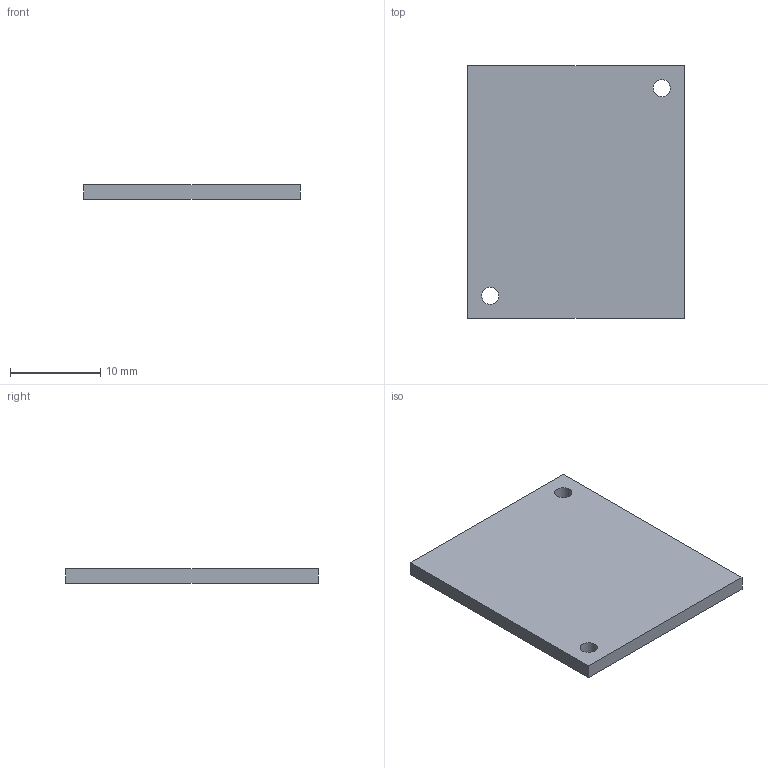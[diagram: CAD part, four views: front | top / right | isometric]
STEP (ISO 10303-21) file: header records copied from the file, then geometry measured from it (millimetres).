
FILE_DESCRIPTION(('Open CASCADE Model'),'2;1');
FILE_NAME('pcb','2026-11-19T17:25:15',('Author'),('Open CASCADE'), 'Open CASCADE STEP processor 7.8','build123d','Unknown');
FILE_SCHEMA(('AUTOMOTIVE_DESIGN { 1 0 10303 214 1 1 1 1 }'));
Length unit declared in the file: millimetre
Products named in the file (1): pcb
Bounding box: 24 x 28 x 1.6 mm (x, y, z)
Volume: 1066.1 mm3; surface area: 1518.2 mm2
Topology: 1 solids, 1 shells, 8 faces, 18 edges, 12 vertices
Faces by surface type: plane 6, cylinder 2
Full cylindrical faces by diameter (mm): 1.9 x2
Entity records: 487 total; most frequent: DIRECTION 76, CARTESIAN_POINT 75, LINE 46, VECTOR 46, ORIENTED_EDGE 36, PCURVE 36, DEFINITIONAL_REPRESENTATION 36, EDGE_CURVE 18
